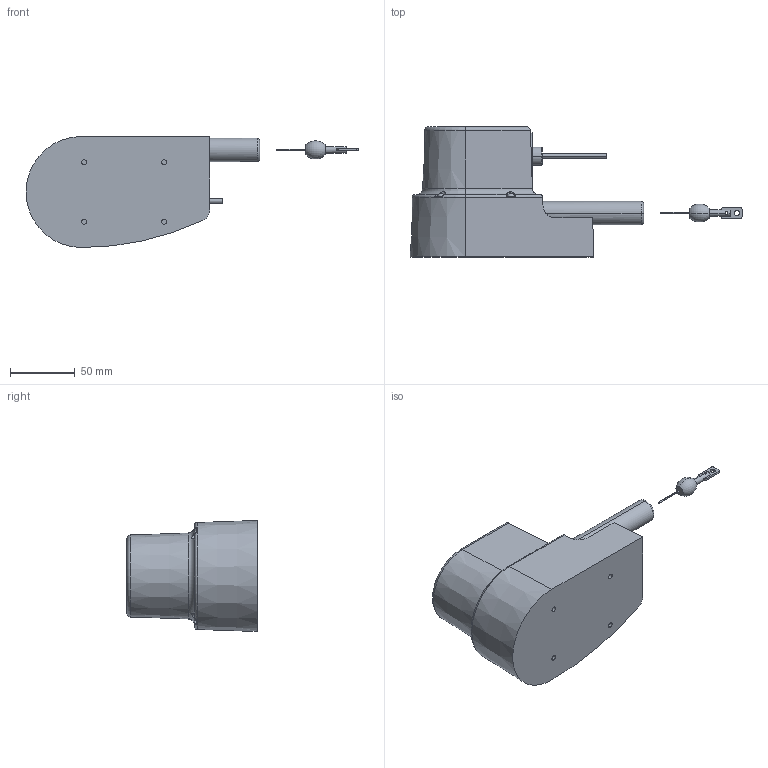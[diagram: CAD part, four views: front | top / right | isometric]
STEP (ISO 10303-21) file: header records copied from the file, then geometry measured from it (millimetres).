
FILE_DESCRIPTION (( 'STEP AP214' ), '1' );
FILE_NAME ('AC-04A_Assem1.STEP', '2024-06-18T02:28:19', ( '' ), ( '' ), 'SwSTEP 2.0', 'SolidWorks 2023', '' );
FILE_SCHEMA (( 'AUTOMOTIVE_DESIGN' ));
Length unit declared in the file: millimetre
Products named in the file (5): SCREW M3 X6 MM; AC-04A_Part2; AC-04A_Part1; AC-04A_Assem1; AC-04A_Part3
Assembly tree (8 placements, depth 2):
  AC-04A_Assem1
    AC-04A_Part1
    AC-04A_Part2
    AC-04A_Part3
    SCREW M3 X6 MM  x5
Bounding box: 257.22 x 100.8 x 86 mm (x, y, z)
Volume: 732236.8 mm3; surface area: 58496.7 mm2
Topology: 9 solids, 9 shells, 284 faces, 765 edges, 520 vertices
Faces by surface type: plane 124, cylinder 78, torus 31, cone 26, bspline 25
Entity records: 6836 total; most frequent: CARTESIAN_POINT 2027, DIRECTION 1013, ORIENTED_EDGE 954, EDGE_CURVE 477, AXIS2_PLACEMENT_3D 414, VERTEX_POINT 312, CIRCLE 220, EDGE_LOOP 215
